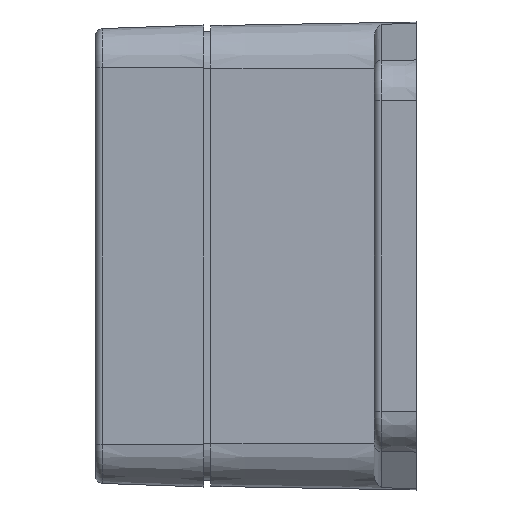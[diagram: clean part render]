
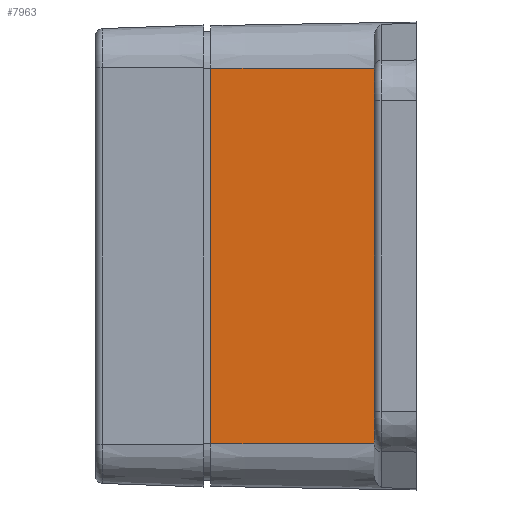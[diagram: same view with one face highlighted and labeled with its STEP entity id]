
A CAD part, left-side view. The second image highlights one B-rep face of the part: STEP entity #7963.
In plain terms, the highlighted planar face has unit normal (-1, 0.018, 0).
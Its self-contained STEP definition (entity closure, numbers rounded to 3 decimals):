
#628 = LINE ( 'NONE', #8979, #8706 ) ;
#2314 = PLANE ( 'NONE',  #7726 ) ;
#2463 = VECTOR ( 'NONE', #11409, 1000. ) ;
#3083 = LINE ( 'NONE', #17447, #3415 ) ;
#3415 = VECTOR ( 'NONE', #17642, 1000. ) ;
#3936 = ORIENTED_EDGE ( 'NONE', *, *, #9529, .F. ) ;
#7118 = ORIENTED_EDGE ( 'NONE', *, *, #10916, .T. ) ;
#7178 = CARTESIAN_POINT ( 'NONE',  ( -57.918, -24.019, -26.499 ) ) ;
#7278 = DIRECTION ( 'NONE',  ( -0.017, -1., 0. ) ) ;
#7726 = AXIS2_PLACEMENT_3D ( 'NONE', #11622, #10250, #7278 ) ;
#7963 = ADVANCED_FACE ( 'NONE', ( #11520 ), #2314, .T. ) ;
#8390 = EDGE_CURVE ( 'NONE', #14459, #15640, #628, .T. ) ;
#8706 = VECTOR ( 'NONE', #15322, 1000. ) ;
#8979 = CARTESIAN_POINT ( 'NONE',  ( -57.516, -0.995, -26.499 ) ) ;
#9420 = CARTESIAN_POINT ( 'NONE',  ( -57.918, -24.019, 26.499 ) ) ;
#9439 = VECTOR ( 'NONE', #11012, 1000. ) ;
#9529 = EDGE_CURVE ( 'NONE', #10518, #15640, #12978, .T. ) ;
#10250 = DIRECTION ( 'NONE',  ( -1., 0.017, 0. ) ) ;
#10518 = VERTEX_POINT ( 'NONE', #7178 ) ;
#10911 = CARTESIAN_POINT ( 'NONE',  ( -57.499, 0., 26.499 ) ) ;
#10916 = EDGE_CURVE ( 'NONE', #16195, #14459, #16086, .T. ) ;
#11012 = DIRECTION ( 'NONE',  ( 0.017, 1., 0. ) ) ;
#11409 = DIRECTION ( 'NONE',  ( 0.017, 1., 0. ) ) ;
#11503 = ORIENTED_EDGE ( 'NONE', *, *, #17028, .T. ) ;
#11520 = FACE_OUTER_BOUND ( 'NONE', #12331, .T. ) ;
#11622 = CARTESIAN_POINT ( 'NONE',  ( -57.499, 0., -26.499 ) ) ;
#12331 = EDGE_LOOP ( 'NONE', ( #7118, #12686, #3936, #11503 ) ) ;
#12686 = ORIENTED_EDGE ( 'NONE', *, *, #8390, .T. ) ;
#12688 = CARTESIAN_POINT ( 'NONE',  ( -57.499, 0., -26.499 ) ) ;
#12978 = LINE ( 'NONE', #12688, #2463 ) ;
#14459 = VERTEX_POINT ( 'NONE', #16680 ) ;
#15322 = DIRECTION ( 'NONE',  ( 0., 0., -1. ) ) ;
#15640 = VERTEX_POINT ( 'NONE', #16221 ) ;
#16086 = LINE ( 'NONE', #10911, #9439 ) ;
#16195 = VERTEX_POINT ( 'NONE', #9420 ) ;
#16221 = CARTESIAN_POINT ( 'NONE',  ( -57.516, -0.995, -26.499 ) ) ;
#16680 = CARTESIAN_POINT ( 'NONE',  ( -57.516, -0.995, 26.499 ) ) ;
#17028 = EDGE_CURVE ( 'NONE', #10518, #16195, #3083, .T. ) ;
#17447 = CARTESIAN_POINT ( 'NONE',  ( -57.918, -24.019, -26.499 ) ) ;
#17642 = DIRECTION ( 'NONE',  ( 0., 0., 1. ) ) ;
